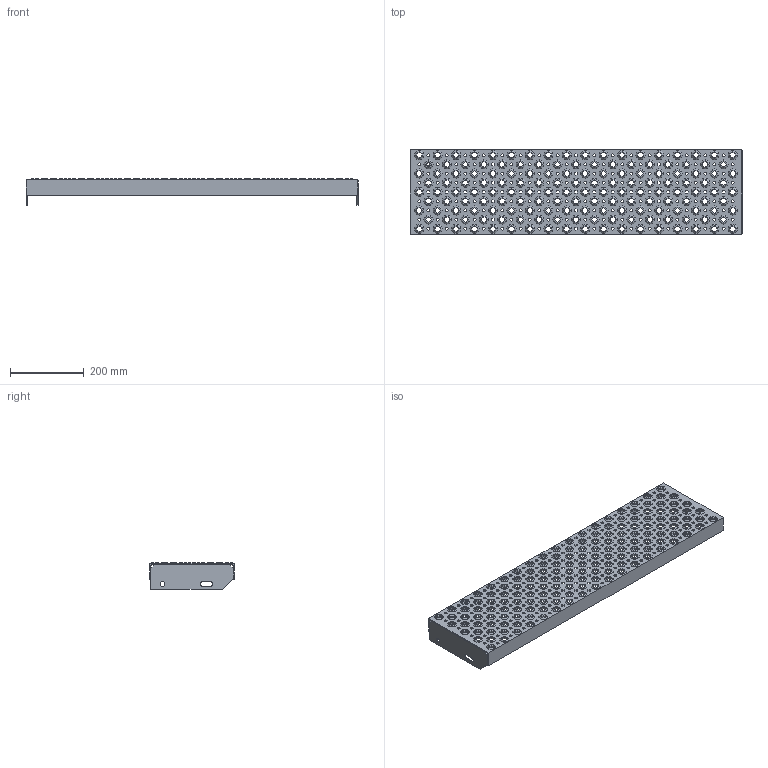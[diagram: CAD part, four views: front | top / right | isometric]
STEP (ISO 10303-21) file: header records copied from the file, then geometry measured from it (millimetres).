
FILE_DESCRIPTION(('Open CASCADE Model'),'2;1');
FILE_NAME('Open CASCADE Shape Model','2020-06-30T11:08:31',('Author'),( 'Open CASCADE'),'Open CASCADE STEP processor 7.2','Open CASCADE 7.2' ,'Unknown');
FILE_SCHEMA(('AUTOMOTIVE_DESIGN { 1 0 10303 214 1 1 1 1 }'));
Length unit declared in the file: millimetre
Products named in the file (6649): Open CASCADE STEP translator 7.2 1; Open CASCADE STEP translator 7.2 2; Open CASCADE STEP translator 7.2 3; Open CASCADE STEP translator 7.2 3.1; Open CASCADE STEP translator 7.2 3.2; Open CASCADE STEP translator 7.2 3.3; Open CASCADE STEP translator 7.2 3.4; Open CASCADE STEP translator 7.2 3.5; Open CASCADE STEP translator 7.2 3.6; Open CASCADE STEP translator 7.2 3.7; Open CASCADE STEP translator 7.2 3.8; Open CASCADE STEP translator 7.2 3.9; Open CASCADE STEP translator 7.2 3.10; Open CASCADE STEP translator 7.2 3.11; Open CASCADE STEP translator 7.2 3.12; Open CASCADE STEP translator 7.2 3.13; Open CASCADE STEP translator 7.2 3.14; Open CASCADE STEP translator 7.2 3.15; Open CASCADE STEP translator 7.2 3.16; Open CASCADE STEP translator 7.2 3.17; Open CASCADE STEP translator 7.2 3.18; Open CASCADE STEP translator 7.2 3.19; Open CASCADE STEP translator 7.2 3.20; Open CASCADE STEP translator 7.2 3.21; Open CASCADE STEP translator 7.2 3.22; Open CASCADE STEP translator 7.2 3.23; Open CASCADE STEP translator 7.2 3.24; Open CASCADE STEP translator 7.2 3.25; Open CASCADE STEP translator 7.2 3.26; Open CASCADE STEP translator 7.2 3.27; Open CASCADE STEP translator 7.2 3.28; Open CASCADE STEP translator 7.2 3.29; Open CASCADE STEP translator 7.2 3.30; Open CASCADE STEP translator 7.2 3.31; Open CASCADE STEP translator 7.2 3.32; Open CASCADE STEP translator 7.2 3.33; Open CASCADE STEP translator 7.2 3.34; Open CASCADE STEP translator 7.2 3.35; Open CASCADE STEP translator 7.2 3.36; Open CASCADE STEP translator 7.2 3.37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
Assembly tree (6646 placements, depth 2):
  Open CASCADE STEP translator 7.2 1
  Open CASCADE STEP translator 7.2 2
  Open CASCADE STEP translator 7.2 3
    Open CASCADE STEP translator 7.2 3.1
    Open CASCADE STEP translator 7.2 3.2
    Open CASCADE STEP translator 7.2 3.3
    Open CASCADE STEP translator 7.2 3.4
    Open CASCADE STEP translator 7.2 3.5
    Open CASCADE STEP translator 7.2 3.6
    Open CASCADE STEP translator 7.2 3.7
    Open CASCADE STEP translator 7.2 3.8
    Open CASCADE STEP translator 7.2 3.9
    Open CASCADE STEP translator 7.2 3.10
    Open CASCADE STEP translator 7.2 3.11
    Open CASCADE STEP translator 7.2 3.12
    Open CASCADE STEP translator 7.2 3.13
    Open CASCADE STEP translator 7.2 3.14
    Open CASCADE STEP translator 7.2 3.15
    Open CASCADE STEP translator 7.2 3.16
    Open CASCADE STEP translator 7.2 3.17
    Open CASCADE STEP translator 7.2 3.18
    Open CASCADE STEP translator 7.2 3.19
    Open CASCADE STEP translator 7.2 3.20
    Open CASCADE STEP translator 7.2 3.21
    Open CASCADE STEP translator 7.2 3.22
    Open CASCADE STEP translator 7.2 3.23
    Open CASCADE STEP translator 7.2 3.24
    Open CASCADE STEP translator 7.2 3.25
    Open CASCADE STEP translator 7.2 3.26
    Open CASCADE STEP translator 7.2 3.27
    Open CASCADE STEP translator 7.2 3.28
    Open CASCADE STEP translator 7.2 3.29
    Open CASCADE STEP translator 7.2 3.30
    Open CASCADE STEP translator 7.2 3.31
    Open CASCADE STEP translator 7.2 3.32
    Open CASCADE STEP translator 7.2 3.33
    Open CASCADE STEP translator 7.2 3.34
    Open CASCADE STEP translator 7.2 3.35
    Open CASCADE STEP translator 7.2 3.36
    Open CASCADE STEP translator 7.2 3.37
    Open CASCADE STEP translator 7.2 3.38
    Open CASCADE STEP translator 7.2 3.39
    Open CASCADE STEP translator 7.2 3.40
    Open CASCADE STEP translator 7.2 3.41
    Open CASCADE STEP translator 7.2 3.42
    Open CASCADE STEP translator 7.2 3.43
    Open CASCADE STEP translator 7.2 3.44
    Open CASCADE STEP translator 7.2 3.45
    Open CASCADE STEP translator 7.2 3.46
    Open CASCADE STEP translator 7.2 3.47
    Open CASCADE STEP translator 7.2 3.48
    Open CASCADE STEP translator 7.2 3.49
    Open CASCADE STEP translator 7.2 3.50
    Open CASCADE STEP translator 7.2 3.51
    Open CASCADE STEP translator 7.2 3.52
    Open CASCADE STEP translator 7.2 3.53
    Open CASCADE STEP translator 7.2 3.54
    Open CASCADE STEP translator 7.2 3.55
    Open CASCADE STEP translator 7.2 3.56
    Open CASCADE STEP translator 7.2 3.57
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Bounding box: 900 x 230 x 73 mm (x, y, z)
Volume: 83595.2 mm3; surface area: 717113.8 mm2
Topology: 2 solids, 6648 shells, 6674 faces, 38040 edges, 38016 vertices
Faces by surface type: plane 6668, cylinder 6
Full cylindrical faces by diameter (mm): 13 x2
Entity records: 759316 total; most frequent: CARTESIAN_POINT 127537, DIRECTION 102778, LINE 76104, VECTOR 76104, ORIENTED_EDGE 38112, PCURVE 38112, DEFINITIONAL_REPRESENTATION 38112, EDGE_CURVE 38040
